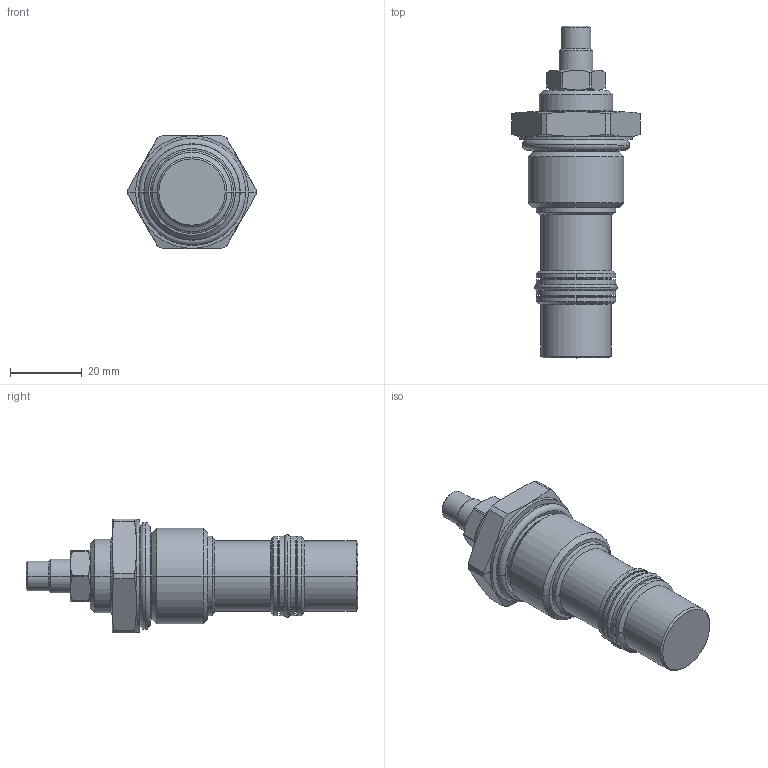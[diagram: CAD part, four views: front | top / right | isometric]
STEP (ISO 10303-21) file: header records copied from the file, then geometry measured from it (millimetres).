
FILE_DESCRIPTION((''),'2;1');
FILE_NAME('FR12-23A','2009-02-03T',('jcs'),(''),'PRO/ENGINEER BY PARAMETRIC TECHNOLOGY CORPORATION, 2008010','PRO/ENGINEER BY PARAMETRIC TECHNOLOGY CORPORATION, 2008010','');
FILE_SCHEMA(('CONFIG_CONTROL_DESIGN'));
Length unit declared in the file: inch
Products named in the file (1): FR12-23A
Bounding box: 35.81 x 92.71 x 31.75 mm (x, y, z)
Volume: 34465.1 mm3; surface area: 9744.6 mm2
Topology: 3 solids, 4 shells, 161 faces, 378 edges, 227 vertices
Faces by surface type: cylinder 46, plane 41, cone 40, torus 18, revolution 16
Entity records: 5200 total; most frequent: CARTESIAN_POINT 1450, DIRECTION 810, ORIENTED_EDGE 752, EDGE_CURVE 376, AXIS2_PLACEMENT_3D 335, VERTEX_POINT 227, CIRCLE 190, EDGE_LOOP 171
